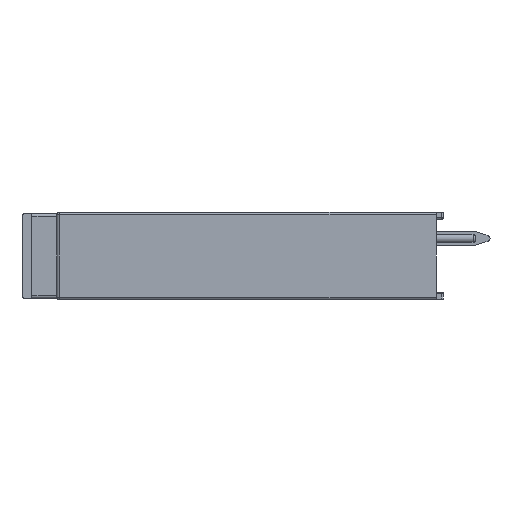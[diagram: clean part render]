
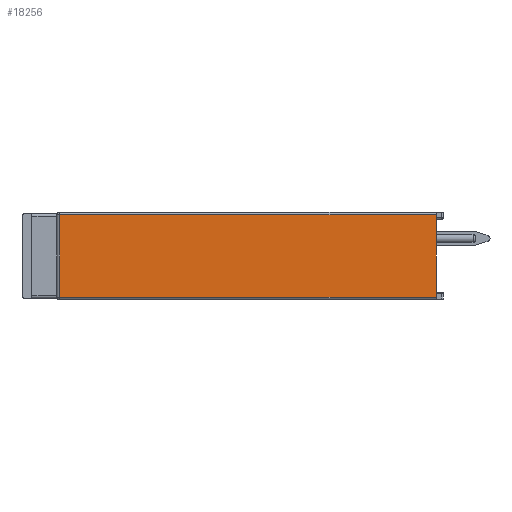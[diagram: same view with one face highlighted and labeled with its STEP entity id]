
A CAD part, left-side view. The second image highlights one B-rep face of the part: STEP entity #18256.
In plain terms, the highlighted planar face has unit normal (-1, 0, 0).
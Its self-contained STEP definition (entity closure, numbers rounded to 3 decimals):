
#296 = CARTESIAN_POINT ( 'NONE',  ( -15.5, 0., 0.2 ) ) ;
#881 = CARTESIAN_POINT ( 'NONE',  ( -15.5, 17.6, 0.2 ) ) ;
#924 = DIRECTION ( 'NONE',  ( 0., 1., 0. ) ) ;
#2259 = AXIS2_PLACEMENT_3D ( 'NONE', #19414, #10201, #924 ) ;
#2323 = CARTESIAN_POINT ( 'NONE',  ( -15.5, -9., 6. ) ) ;
#3410 = DIRECTION ( 'NONE',  ( 0., -1., 0. ) ) ;
#3490 = LINE ( 'NONE', #296, #15323 ) ;
#5225 = LINE ( 'NONE', #15161, #12498 ) ;
#5362 = EDGE_LOOP ( 'NONE', ( #6361, #18392, #15903, #14919 ) ) ;
#5536 = EDGE_CURVE ( 'NONE', #11918, #15592, #3490, .T. ) ;
#5897 = DIRECTION ( 'NONE',  ( 0., 0., -1. ) ) ;
#6361 = ORIENTED_EDGE ( 'NONE', *, *, #16782, .T. ) ;
#8018 = LINE ( 'NONE', #10445, #15753 ) ;
#8200 = EDGE_CURVE ( 'NONE', #13790, #15592, #8018, .T. ) ;
#9714 = LINE ( 'NONE', #13024, #16977 ) ;
#9779 = FACE_OUTER_BOUND ( 'NONE', #5362, .T. ) ;
#10201 = DIRECTION ( 'NONE',  ( 1., 0., 0. ) ) ;
#10346 = CARTESIAN_POINT ( 'NONE',  ( -15.5, -9., 0.2 ) ) ;
#10445 = CARTESIAN_POINT ( 'NONE',  ( -15.5, -9., 6.2 ) ) ;
#11918 = VERTEX_POINT ( 'NONE', #881 ) ;
#12498 = VECTOR ( 'NONE', #5897, 1000. ) ;
#13024 = CARTESIAN_POINT ( 'NONE',  ( -15.5, 17.8, 6. ) ) ;
#13371 = EDGE_CURVE ( 'NONE', #13790, #13749, #9714, .T. ) ;
#13554 = DIRECTION ( 'NONE',  ( 0., 0., -1. ) ) ;
#13749 = VERTEX_POINT ( 'NONE', #18582 ) ;
#13790 = VERTEX_POINT ( 'NONE', #2323 ) ;
#14549 = DIRECTION ( 'NONE',  ( 0., 1., 0. ) ) ;
#14919 = ORIENTED_EDGE ( 'NONE', *, *, #13371, .T. ) ;
#15161 = CARTESIAN_POINT ( 'NONE',  ( -15.5, 17.6, 6.2 ) ) ;
#15323 = VECTOR ( 'NONE', #3410, 1000. ) ;
#15592 = VERTEX_POINT ( 'NONE', #10346 ) ;
#15753 = VECTOR ( 'NONE', #13554, 1000. ) ;
#15903 = ORIENTED_EDGE ( 'NONE', *, *, #8200, .F. ) ;
#16327 = PLANE ( 'NONE',  #2259 ) ;
#16782 = EDGE_CURVE ( 'NONE', #13749, #11918, #5225, .T. ) ;
#16977 = VECTOR ( 'NONE', #14549, 1000. ) ;
#18256 = ADVANCED_FACE ( 'NONE', ( #9779 ), #16327, .F. ) ;
#18392 = ORIENTED_EDGE ( 'NONE', *, *, #5536, .T. ) ;
#18582 = CARTESIAN_POINT ( 'NONE',  ( -15.5, 17.6, 6. ) ) ;
#19414 = CARTESIAN_POINT ( 'NONE',  ( -15.5, 0., 6.2 ) ) ;
